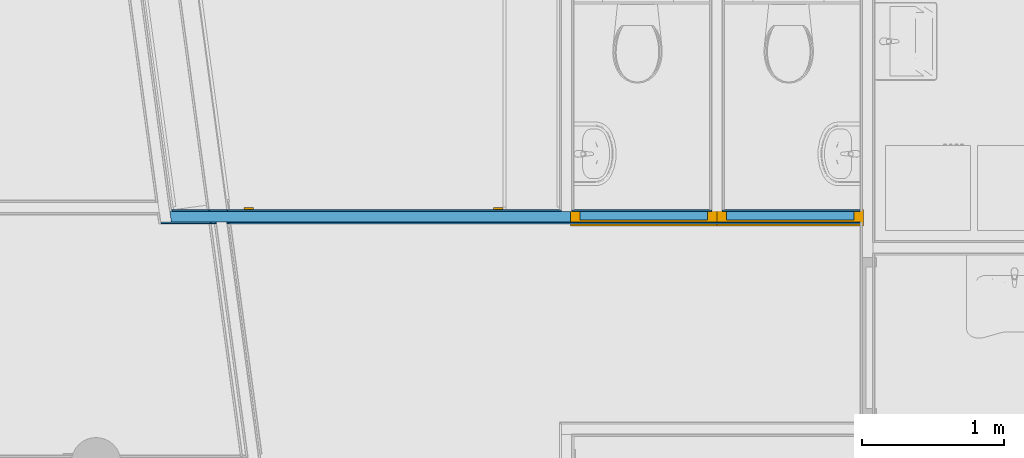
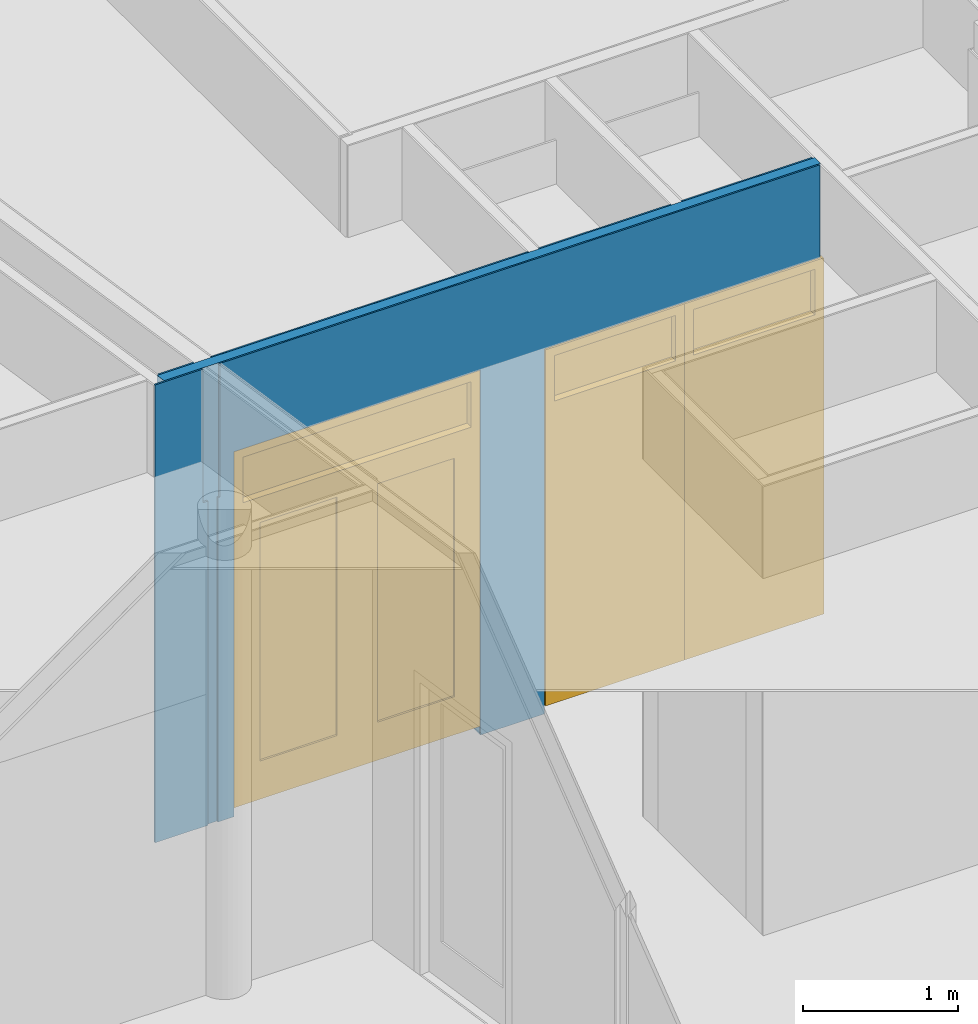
# One storey, part 34 of 167: 3 building element parts, 3 doors, 3 openings, 1 element without a shape of its own.
"""IFC2X3 building model written with IfcOpenShell, lengths in millimetres."""

from ifc_helpers import new_model, entity, si_unit, converted_unit, derived_unit, money_unit, direction, frame, origin_with_axes, place, context, subcontext, project, spatial, open_shell, faceted_brep, surface_model, source, transform, mapped, material, type_object, type_shapes, element, fill, aggregate, save


model = new_model("IFC2X3")

# Units and contexts
model_context = context("Model", 3, precision=0.01, world=origin_with_axes(), true_north=direction((0.0, 1.0)))
plan_context = context("Plan", 3, precision=0.01, world=origin_with_axes(), true_north=direction((0.0, 1.0)))
body_context = subcontext(model_context, "Body", "Model", "MODEL_VIEW")
ifc_project = project(units=[si_unit("LENGTHUNIT", "METRE", prefix="MILLI"), si_unit("AREAUNIT", "SQUARE_METRE"), si_unit("VOLUMEUNIT", "CUBIC_METRE"), converted_unit("PLANEANGLEUNIT", "DEGREE", entity("IfcPlaneAngleMeasure", 0.0174532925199), si_unit("PLANEANGLEUNIT", "RADIAN"), dimensions=[0, 0, 0, 0, 0, 0, 0]), si_unit("SOLIDANGLEUNIT", "STERADIAN"), money_unit("EUR"), converted_unit("TIMEUNIT", "Year", entity("IfcTimeMeasure", 31556926.0), si_unit("TIMEUNIT", "SECOND"), dimensions=[0, 0, 1, 0, 0, 0, 0]), si_unit("MASSUNIT", "GRAM", prefix="KILO"), si_unit("THERMODYNAMICTEMPERATUREUNIT", "DEGREE_CELSIUS"), si_unit("LUMINOUSINTENSITYUNIT", "LUMEN"), si_unit("ENERGYUNIT", "JOULE", prefix="MEGA"), derived_unit("THERMALCONDUCTANCEUNIT", [(si_unit("POWERUNIT", "WATT"), 1), (si_unit("LENGTHUNIT", "METRE"), -1), (si_unit("THERMODYNAMICTEMPERATUREUNIT", "KELVIN"), -1)]), derived_unit("SPECIFICHEATCAPACITYUNIT", [(si_unit("ENERGYUNIT", "JOULE"), 1), (si_unit("MASSUNIT", "GRAM", prefix="KILO"), -1), (si_unit("THERMODYNAMICTEMPERATUREUNIT", "KELVIN"), -1)]), derived_unit("MASSDENSITYUNIT", [(si_unit("MASSUNIT", "GRAM", prefix="KILO"), 1), (si_unit("VOLUMEUNIT", "CUBIC_METRE"), -1)])], contexts=[model_context, plan_context])

# Site, building, storey
site_placement = place(None, origin_with_axes())
site = spatial("IfcSite", under=ifc_project, at=site_placement, Name="Site", CompositionType="ELEMENT")
building_placement = place(site_placement, origin_with_axes())
building = spatial("IfcBuilding", under=site, at=building_placement, Name="Naam gebouw", CompositionType="ELEMENT")
storey_placement = place(building_placement, origin_with_axes())
storey = spatial("IfcBuildingStorey", under=building, at=storey_placement, Name="Begane grond", CompositionType="ELEMENT", Elevation=0.0)

# Door
door_style_1 = type_object("IfcDoorStyle", Name="D1 bl 24", ConstructionType="NOTDEFINED", OperationType="SINGLE_SWING_LEFT", ParameterTakesPrecedence=False, Sizeable=False)
shared_shape = source(origin_with_axes(), body_context, "Body", "SurfaceModel", [
    faceted_brep([(450.0, -40.0, 2325.0), (450.0, -40.0, 0.0), (450.0, -114.0, 0.0), (450.0, -114.0, 2300.0), (450.0, -114.0, 2375.0), (450.0, 0.0, 2375.0), (450.0, 0.0, 2325.0), (475.0, -40.0, 2325.0), (475.0, -40.0, 0.0), (475.0, 0.0, 0.0), (517.0, 0.0, 0.0), (517.0, -114.0, 0.0), (517.0, -114.0, 2733.0), (450.0, -114.0, 2733.0), (450.0, 0.0, 2733.0), (475.0, 0.0, 2325.0), (517.0, 0.0, 2733.0)], [[[0, 1, 2, 3, 4, 5, 6]], [[0, 7, 8, 1]], [[8, 9, 10, 11, 2, 1]], [[4, 3, 2, 11, 12, 13]], [[14, 5, 4, 13]], [[15, 6, 5, 14, 16, 10, 9]], [[6, 15, 7, 0]], [[9, 8, 7, 15]], [[10, 16, 12, 11]], [[16, 14, 13, 12]]]),
    faceted_brep([(-475.0, 0.0, 2325.0), (-475.0, 0.0, 0.0), (-517.0, 0.0, 0.0), (-517.0, 0.0, 2733.0), (-450.0, 0.0, 2733.0), (-450.0, 0.0, 2375.0), (-450.0, 0.0, 2325.0), (-475.0, -40.0, 2325.0), (-475.0, -40.0, 0.0), (-450.0, -40.0, 0.0), (-450.0, -114.0, 0.0), (-517.0, -114.0, 0.0), (-517.0, -114.0, 2733.0), (-450.0, -114.0, 2733.0), (-450.0, -114.0, 2375.0), (-450.0, -40.0, 2325.0), (-450.0, -114.0, 2300.0)], [[[0, 1, 2, 3, 4, 5, 6]], [[0, 7, 8, 1]], [[8, 9, 10, 11, 2, 1]], [[3, 2, 11, 12]], [[4, 3, 12, 13]], [[5, 4, 13, 14]], [[15, 6, 5, 14, 16, 10, 9]], [[6, 15, 7, 0]], [[8, 7, 15, 9]], [[14, 13, 12, 11, 10, 16]]]),
    faceted_brep([(517.0, 0.0, 2800.0), (517.0, -114.0, 2800.0), (517.0, -114.0, 2733.0), (517.0, 0.0, 2733.0), (-517.0, 0.0, 2800.0), (-517.0, -114.0, 2800.0), (-517.0, -114.0, 2733.0), (-450.0, -114.0, 2733.0), (450.0, -114.0, 2733.0), (450.0, 0.0, 2733.0), (-450.0, 0.0, 2733.0), (-517.0, 0.0, 2733.0)], [[[0, 1, 2, 3]], [[4, 5, 1, 0]], [[1, 5, 6, 7, 8, 2]], [[3, 2, 8, 9]], [[0, 3, 9, 10, 11, 4]], [[11, 6, 5, 4]], [[10, 7, 6, 11]], [[9, 8, 7, 10]]]),
    faceted_brep([(-450.0, -40.0, 2325.0), (-450.0, -40.0, 2300.0), (-450.0, -114.0, 2300.0), (-450.0, -114.0, 2375.0), (-450.0, 0.0, 2375.0), (-450.0, 0.0, 2325.0), (450.0, -40.0, 2325.0), (450.0, -40.0, 2300.0), (450.0, -114.0, 2300.0), (450.0, -114.0, 2375.0), (450.0, 0.0, 2375.0), (450.0, 0.0, 2325.0)], [[[0, 1, 2, 3, 4, 5]], [[0, 6, 7, 1]], [[7, 8, 2, 1]], [[8, 9, 3, 2]], [[10, 4, 3, 9]], [[5, 4, 10, 11]], [[5, 11, 6, 0]], [[6, 11, 10, 9, 8, 7]]]),
    faceted_brep([(-475.0, 0.0, 0.0), (475.0, 0.0, 0.0), (475.0, -40.0, 0.0), (-475.0, -40.0, 0.0), (-475.0, 0.0, 2325.0), (475.0, 0.0, 2325.0), (475.0, -40.0, 2325.0), (-475.0, -40.0, 2325.0)], [[[0, 1, 2, 3]], [[0, 4, 5, 1]], [[1, 5, 6, 2]], [[3, 2, 6, 7]], [[4, 0, 3, 7]], [[5, 4, 7, 6]]]),
    surface_model("IfcShellBasedSurfaceModel", [(450.0, -54.0, 2375.0), (-450.0, -54.0, 2375.0), (-450.0, -54.0, 2733.0), (450.0, -54.0, 2733.0)], [open_shell([[[0, 1, 2, 3]]])]),
    surface_model("IfcShellBasedSurfaceModel", [(450.0, -66.0, 2375.0), (450.0, -66.0, 2733.0), (-450.0, -66.0, 2733.0), (-450.0, -66.0, 2375.0)], [open_shell([[[0, 1, 2, 3]]])]),
])
type_shapes(door_style_1, [shared_shape])
wall_placement = place(storey_placement, frame((27050.0000132, 35586.3531845, -100.0), z_axis=(0.0, 0.0, 1.0), x_axis=(-1.0, -2.02650888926e-08, 0.0)))
opening_1_placement = place(wall_placement, frame((545.499998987, 0.0, 100.0), z_axis=(0.0, 0.0, 1.0), x_axis=(1.0, 0.0, 0.0)))
door_1_placement = place(opening_1_placement, frame((-517.0, 0.0, 0.0), z_axis=(0.0, 0.0, 1.0), x_axis=(1.0, 0.0, 0.0)))
door_1 = element("IfcDoor", 1, at=door_1_placement, inside=storey, type_object=door_style_1, Name="32_Deur_Hi-07", ObjectType="DOOR", OverallHeight=2800.0, OverallWidth=1034.0, context=body_context, shape_type="MappedRepresentation", body=[
    mapped(shared_shape, transform((517.00000231, 63.9999889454, 0.0))),
])

opening_2_placement = place(wall_placement, frame((1579.49999899, 0.0, 100.0), z_axis=(0.0, 0.0, 1.0), x_axis=(1.0, 0.0, 0.0)))
door_2_placement = place(opening_2_placement, frame((-517.0, 0.0, 0.0), z_axis=(0.0, 0.0, 1.0), x_axis=(1.0, 0.0, 0.0)))
door_2 = element("IfcDoor", 2, at=door_2_placement, inside=storey, type_object=door_style_1, Name="32_Deur_Hi-07", ObjectType="DOOR", OverallHeight=2800.0, OverallWidth=1034.0, context=body_context, shape_type="MappedRepresentation", body=[
    mapped(shared_shape, transform((517.00000231, 63.9999679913, 0.0))),
])

door_style_2 = type_object("IfcDoorStyle", Name="D2 bl 24", ConstructionType="NOTDEFINED", OperationType="DOUBLE_DOOR_SINGLE_SWING", ParameterTakesPrecedence=False, Sizeable=False)
opening_3_placement = place(wall_placement, frame((3490.49995973, 0.0, 100.0), z_axis=(0.0, 0.0, 1.0), x_axis=(1.0, 0.0, 0.0)))
door_3_placement = place(opening_3_placement, frame((-915.5, 0.0, 0.0), z_axis=(0.0, 0.0, 1.0), x_axis=(1.0, 0.0, 0.0)))
door_3 = element("IfcDoor", 3, at=door_3_placement, inside=storey, type_object=door_style_2, Name="32_Deur_Hi-17", ObjectType="DOOR", OverallHeight=2800.0, OverallWidth=1831.0, context=body_context, shape_type="SurfaceModel", body=[
    faceted_brep([(1764.00000122, 9.99991206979, 2325.0), (1764.00000122, 9.99991206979, 0.0), (1763.99999972, -64.0000879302, 0.0), (1763.99999972, -64.0000879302, 2300.0), (1763.99999972, -64.0000879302, 2375.0), (1764.00000203, 49.9999120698, 2375.0), (1764.00000203, 49.9999120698, 2325.0), (1789.00000122, 9.99991156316, 2325.0), (1789.00000122, 9.99991156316, 0.0), (1789.00000203, 49.9999115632, 0.0), (1831.00000203, 49.999910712, 0.0), (1830.99999972, -64.000089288, 0.0), (1830.99999972, -64.000089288, 2733.0), (1763.99999972, -64.0000879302, 2733.0), (1764.00000203, 49.9999120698, 2733.0), (1789.00000203, 49.9999115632, 2325.0), (1831.00000203, 49.999910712, 2733.0)], [[[0, 1, 2, 3, 4, 5, 6]], [[0, 7, 8, 1]], [[8, 9, 10, 11, 2, 1]], [[4, 3, 2, 11, 12, 13]], [[14, 5, 4, 13]], [[15, 6, 5, 14, 16, 10, 9]], [[6, 15, 7, 0]], [[9, 8, 7, 15]], [[10, 16, 12, 11]], [[16, 14, 13, 12]]]),
    faceted_brep([(42.0000020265, 49.9999469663, 2325.0), (42.0000020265, 49.9999469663, 0.0), (2.02651406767e-06, 49.9999478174, 0.0), (2.02651406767e-06, 49.9999478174, 2733.0), (67.0000020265, 49.9999464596, 2733.0), (67.0000020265, 49.9999464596, 2375.0), (67.0000020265, 49.9999464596, 2325.0), (42.0000012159, 9.99994696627, 2325.0), (42.0000012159, 9.99994696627, 0.0), (67.0000012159, 9.99994645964, 0.0), (66.9999997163, -64.0000535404, 0.0), (-2.83705503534e-07, -64.0000521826, 0.0), (-2.83705503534e-07, -64.0000521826, 2733.0), (66.9999997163, -64.0000535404, 2733.0), (66.9999997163, -64.0000535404, 2375.0), (67.0000012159, 9.99994645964, 2325.0), (66.9999997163, -64.0000535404, 2300.0)], [[[0, 1, 2, 3, 4, 5, 6]], [[0, 7, 8, 1]], [[8, 9, 10, 11, 2, 1]], [[3, 2, 11, 12]], [[4, 3, 12, 13]], [[5, 4, 13, 14]], [[15, 6, 5, 14, 16, 10, 9]], [[6, 15, 7, 0]], [[8, 7, 15, 9]], [[14, 13, 12, 11, 10, 16]]]),
    faceted_brep([(1831.00000203, 49.999910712, 2800.0), (1830.99999972, -64.000089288, 2800.0), (1830.99999972, -64.000089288, 2733.0), (1831.00000203, 49.999910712, 2733.0), (2.02651406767e-06, 49.9999478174, 2800.0), (-2.83705503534e-07, -64.0000521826, 2800.0), (-2.83705503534e-07, -64.0000521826, 2733.0), (66.9999997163, -64.0000535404, 2733.0), (1763.99999972, -64.0000879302, 2733.0), (1764.00000203, 49.9999120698, 2733.0), (67.0000020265, 49.9999464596, 2733.0), (2.02651406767e-06, 49.9999478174, 2733.0)], [[[0, 1, 2, 3]], [[4, 5, 1, 0]], [[1, 5, 6, 7, 8, 2]], [[3, 2, 8, 9]], [[0, 3, 9, 10, 11, 4]], [[11, 6, 5, 4]], [[10, 7, 6, 11]], [[9, 8, 7, 10]]]),
    faceted_brep([(67.0000012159, 9.99994645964, 2325.0), (67.0000012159, 9.99994645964, 2300.0), (66.9999997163, -64.0000535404, 2300.0), (66.9999997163, -64.0000535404, 2375.0), (67.0000020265, 49.9999464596, 2375.0), (67.0000020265, 49.9999464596, 2325.0), (1764.00000122, 9.99991206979, 2325.0), (1764.00000122, 9.99991206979, 2300.0), (1763.99999972, -64.0000879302, 2300.0), (1763.99999972, -64.0000879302, 2375.0), (1764.00000203, 49.9999120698, 2375.0), (1764.00000203, 49.9999120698, 2325.0)], [[[0, 1, 2, 3, 4, 5]], [[0, 6, 7, 1]], [[7, 8, 2, 1]], [[8, 9, 3, 2]], [[10, 4, 3, 9]], [[5, 4, 10, 11]], [[5, 11, 6, 0]], [[6, 11, 10, 9, 8, 7]]]),
    faceted_brep([(42.0000020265, 49.9999469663, 300.0), (192.000002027, 49.9999439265, 300.0), (192.000001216, 9.99994392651, 300.0), (42.0000012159, 9.99994696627, 300.0), (42.0000020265, 49.9999469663, 2175.0), (192.000002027, 49.9999439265, 2175.0), (192.000001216, 9.99994392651, 2175.0), (42.0000012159, 9.99994696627, 2175.0)], [[[0, 1, 2, 3]], [[0, 4, 5, 1]], [[1, 5, 6, 2]], [[3, 2, 6, 7]], [[4, 0, 3, 7]], [[5, 4, 7, 6]]]),
    faceted_brep([(915.500002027, 49.9999292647, 300.0), (915.500002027, 49.9999292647, 2175.0), (915.500001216, 9.99992926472, 2175.0), (915.500001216, 9.99992926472, 300.0), (765.500002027, 49.9999323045, 300.0), (765.500002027, 49.9999323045, 2175.0), (765.500001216, 9.99993230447, 2175.0), (765.500001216, 9.99993230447, 300.0)], [[[0, 1, 2, 3]], [[0, 4, 5, 1]], [[1, 5, 6, 2]], [[3, 2, 6, 7]], [[4, 0, 3, 7]], [[5, 4, 7, 6]]]),
    faceted_brep([(42.0000020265, 49.9999469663, 0.0), (915.500002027, 49.9999292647, 0.0), (915.500001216, 9.99992926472, 0.0), (42.0000012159, 9.99994696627, 0.0), (42.0000020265, 49.9999469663, 300.0), (192.000002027, 49.9999439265, 300.0), (765.500002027, 49.9999323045, 300.0), (915.500002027, 49.9999292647, 300.0), (915.500001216, 9.99992926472, 300.0), (765.500001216, 9.99993230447, 300.0), (192.000001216, 9.99994392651, 300.0), (42.0000012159, 9.99994696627, 300.0)], [[[0, 1, 2, 3]], [[0, 4, 5, 6, 7, 1]], [[1, 7, 8, 2]], [[3, 2, 8, 9, 10, 11]], [[4, 0, 3, 11]], [[5, 4, 11, 10]], [[6, 5, 10, 9]], [[7, 6, 9, 8]]]),
    faceted_brep([(42.0000020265, 49.9999469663, 2325.0), (42.0000020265, 49.9999469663, 2175.0), (42.0000012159, 9.99994696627, 2175.0), (42.0000012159, 9.99994696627, 2325.0), (915.500002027, 49.9999292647, 2325.0), (915.500002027, 49.9999292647, 2175.0), (765.500002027, 49.9999323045, 2175.0), (192.000002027, 49.9999439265, 2175.0), (192.000001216, 9.99994392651, 2175.0), (765.500001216, 9.99993230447, 2175.0), (915.500001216, 9.99992926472, 2175.0), (915.500001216, 9.99992926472, 2325.0)], [[[0, 1, 2, 3]], [[0, 4, 5, 6, 7, 1]], [[1, 7, 8, 2]], [[3, 2, 8, 9, 10, 11]], [[4, 0, 3, 11]], [[5, 4, 11, 10]], [[6, 5, 10, 9]], [[7, 6, 9, 8]]]),
    surface_model("IfcShellBasedSurfaceModel", [(192.000001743, 35.9999439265, 300.0), (192.000001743, 35.9999439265, 2175.0), (765.500001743, 35.9999323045, 2175.0), (765.500001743, 35.9999323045, 300.0)], [open_shell([[[0, 1, 2, 3]]])]),
    surface_model("IfcShellBasedSurfaceModel", [(192.0000015, 23.9999439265, 300.0), (765.5000015, 23.9999323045, 300.0), (765.5000015, 23.9999323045, 2175.0), (192.0000015, 23.9999439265, 2175.0)], [open_shell([[[0, 1, 2, 3]]])]),
    faceted_brep([(1789.00000203, 49.9999115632, 300.0), (1789.00000122, 9.99991156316, 300.0), (1639.00000122, 9.99991460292, 300.0), (1639.00000203, 49.9999146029, 300.0), (1789.00000203, 49.9999115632, 2175.0), (1789.00000122, 9.99991156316, 2175.0), (1639.00000122, 9.99991460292, 2175.0), (1639.00000203, 49.9999146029, 2175.0)], [[[0, 1, 2, 3]], [[4, 5, 1, 0]], [[1, 5, 6, 2]], [[3, 2, 6, 7]], [[0, 3, 7, 4]], [[7, 6, 5, 4]]]),
    faceted_brep([(915.500002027, 49.9999292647, 300.0), (915.500001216, 9.99992926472, 300.0), (915.500001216, 9.99992926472, 2175.0), (915.500002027, 49.9999292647, 2175.0), (1065.50000203, 49.9999262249, 300.0), (1065.50000122, 9.99992622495, 300.0), (1065.50000122, 9.99992622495, 2175.0), (1065.50000203, 49.9999262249, 2175.0)], [[[0, 1, 2, 3]], [[4, 5, 1, 0]], [[1, 5, 6, 2]], [[3, 2, 6, 7]], [[0, 3, 7, 4]], [[7, 6, 5, 4]]]),
    faceted_brep([(1789.00000203, 49.9999115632, 0.0), (1789.00000122, 9.99991156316, 0.0), (915.500001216, 9.99992926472, 0.0), (915.500002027, 49.9999292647, 0.0), (1789.00000203, 49.9999115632, 300.0), (1789.00000122, 9.99991156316, 300.0), (1639.00000122, 9.99991460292, 300.0), (1065.50000122, 9.99992622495, 300.0), (915.500001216, 9.99992926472, 300.0), (915.500002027, 49.9999292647, 300.0), (1065.50000203, 49.9999262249, 300.0), (1639.00000203, 49.9999146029, 300.0)], [[[0, 1, 2, 3]], [[4, 5, 1, 0]], [[1, 5, 6, 7, 8, 2]], [[3, 2, 8, 9]], [[0, 3, 9, 10, 11, 4]], [[11, 6, 5, 4]], [[10, 7, 6, 11]], [[9, 8, 7, 10]]]),
    faceted_brep([(1789.00000203, 49.9999115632, 2325.0), (1789.00000122, 9.99991156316, 2325.0), (1789.00000122, 9.99991156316, 2175.0), (1789.00000203, 49.9999115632, 2175.0), (915.500002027, 49.9999292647, 2325.0), (915.500001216, 9.99992926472, 2325.0), (915.500001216, 9.99992926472, 2175.0), (1065.50000122, 9.99992622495, 2175.0), (1639.00000122, 9.99991460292, 2175.0), (1639.00000203, 49.9999146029, 2175.0), (1065.50000203, 49.9999262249, 2175.0), (915.500002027, 49.9999292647, 2175.0)], [[[0, 1, 2, 3]], [[4, 5, 1, 0]], [[1, 5, 6, 7, 8, 2]], [[3, 2, 8, 9]], [[0, 3, 9, 10, 11, 4]], [[11, 6, 5, 4]], [[10, 7, 6, 11]], [[9, 8, 7, 10]]]),
    surface_model("IfcShellBasedSurfaceModel", [(1639.00000174, 35.9999146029, 300.0), (1065.50000174, 35.9999262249, 300.0), (1065.50000174, 35.9999262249, 2175.0), (1639.00000174, 35.9999146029, 2175.0)], [open_shell([[[0, 1, 2, 3]]])]),
    surface_model("IfcShellBasedSurfaceModel", [(1639.0000015, 23.9999146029, 300.0), (1639.0000015, 23.9999146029, 2175.0), (1065.5000015, 23.9999262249, 2175.0), (1065.5000015, 23.9999262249, 300.0)], [open_shell([[[0, 1, 2, 3]]])]),
    surface_model("IfcShellBasedSurfaceModel", [(1764.00000093, -4.00008793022, 2375.0), (67.0000009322, -4.00005354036, 2375.0), (67.0000009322, -4.00005354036, 2733.0), (1764.00000093, -4.00008793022, 2733.0)], [open_shell([[[0, 1, 2, 3]]])]),
    surface_model("IfcShellBasedSurfaceModel", [(1764.00000069, -16.0000879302, 2375.0), (1764.00000069, -16.0000879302, 2733.0), (67.000000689, -16.0000535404, 2733.0), (67.000000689, -16.0000535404, 2375.0)], [open_shell([[[0, 1, 2, 3]]])]),
])

# Wall, opening
wall_type = type_object("IfcWallType", Name="_TenW_22_Metalstud 100 enkel gipsvezelplaat 100", PredefinedType="NOTDEFINED")
wall = element("IfcWall", 4, at=wall_placement, inside=storey, type_object=wall_type, Name="22_Wand_Wand-x")
opening_1 = element("IfcOpeningElement", 5, at=opening_1_placement, cuts=wall, Name="32_Deur_Hi-07", context=body_context, shape_type="Brep", body=[
    faceted_brep([(-517.00000304, -199.999989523, 0.0), (-517.00000304, -199.999989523, 2800.0), (-516.99999696, 100.000010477, 2800.0), (-516.99999696, 100.000010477, 0.0), (516.99999696, -200.000010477, 0.0), (516.99999696, -200.000010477, 2800.0), (517.00000304, 99.999989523, 2800.0), (517.00000304, 99.999989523, 0.0)], [[[0, 1, 2, 3]], [[0, 4, 5, 1]], [[1, 5, 6, 2]], [[3, 2, 6, 7]], [[4, 0, 3, 7]], [[5, 4, 7, 6]]]),
])

fill(opening_1, door_1)

# Opening
opening_2 = element("IfcOpeningElement", 6, at=opening_2_placement, cuts=wall, Name="32_Deur_Hi-07", context=body_context, shape_type="Brep", body=[
    faceted_brep([(-517.00000304, -199.999989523, 0.0), (-517.00000304, -199.999989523, 2800.0), (-516.99999696, 100.000010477, 2800.0), (-516.99999696, 100.000010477, 0.0), (516.99999696, -200.000010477, 0.0), (516.99999696, -200.000010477, 2800.0), (517.00000304, 99.999989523, 2800.0), (517.00000304, 99.999989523, 0.0)], [[[0, 1, 2, 3]], [[0, 4, 5, 1]], [[1, 5, 6, 2]], [[3, 2, 6, 7]], [[4, 0, 3, 7]], [[5, 4, 7, 6]]]),
])

fill(opening_2, door_2)

opening_3 = element("IfcOpeningElement", 7, at=opening_3_placement, cuts=wall, Name="32_Deur_Hi-17", context=body_context, shape_type="Brep", body=[
    faceted_brep([(-915.499994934, 200.000018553, 2800.0), (-915.499994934, 200.000018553, 0.0), (-915.500001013, -99.9999814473, 0.0), (-915.500001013, -99.9999814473, 2800.0), (915.500005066, 199.999981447, 2800.0), (915.500005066, 199.999981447, 0.0), (915.499998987, -100.000018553, 0.0), (915.499998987, -100.000018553, 2800.0)], [[[0, 1, 2, 3]], [[0, 4, 5, 1]], [[1, 5, 6, 2]], [[3, 2, 6, 7]], [[4, 0, 3, 7]], [[5, 4, 7, 6]]]),
])

fill(opening_3, door_3)

# Building element part
ifc_material_1 = material(Name="Gipsplaat watervast")
building_element_part_1_placement = place(wall_placement, origin_with_axes())
building_element_part_1 = element("IfcBuildingElementPart", 8, at=building_element_part_1_placement, material=ifc_material_1, Name="Gipsplaat watervast", context=body_context, shape_type="Brep", body=[
    faceted_brep([(4405.9999615, 37.499910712, 2900.0), (4405.9999615, 37.499910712, 100.0), (4405.99995973, 37.499910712, 30.0), (4526.21244935, 37.4999082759, 30.0), (4526.21244935, 37.4999082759, 2580.0), (4513.59832285, 37.4999085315, 2580.0), (4513.59832285, 37.4999085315, 3630.0), (50.0000007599, 37.4999989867, 3630.0), (50.0000007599, 37.4999989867, 2900.0), (2096.50000076, 37.4999575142, 2900.0), (2096.50000076, 37.4999575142, 100.0), (2096.49999899, 37.4999575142, 30.0), (2574.99995973, 37.4999478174, 30.0), (2574.9999615, 37.4999478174, 100.0), (2574.9999615, 37.4999478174, 2900.0), (4405.99996175, 49.999910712, 2900.0), (4405.99996175, 49.999910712, 100.0), (4405.99995973, 49.999910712, 30.0), (4524.51946786, 49.9999083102, 30.0), (4524.51946786, 49.9999083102, 2580.0), (4511.90534137, 49.9999085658, 2580.0), (4511.90534137, 49.9999085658, 3630.0), (50.0000010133, 49.9999989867, 3630.0), (50.0000010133, 49.9999989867, 2900.0), (2096.50000101, 49.9999575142, 2900.0), (2096.50000101, 49.9999575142, 100.0), (2096.49999899, 49.9999575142, 30.0), (2574.99995973, 49.9999478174, 30.0), (2574.99996175, 49.9999478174, 100.0), (2574.99996175, 49.9999478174, 2900.0)], [[[0, 1, 2, 3, 4, 5, 6, 7, 8, 9, 10, 11, 12, 13, 14]], [[1, 0, 15, 16]], [[1, 16, 17, 2]], [[3, 2, 17, 18]], [[4, 3, 18, 19]], [[5, 4, 19, 20]], [[6, 5, 20, 21]], [[22, 7, 6, 21]], [[7, 22, 23, 8]], [[9, 8, 23, 24]], [[9, 24, 25, 10]], [[25, 26, 11, 10]], [[26, 27, 12, 11]], [[28, 13, 12, 27]], [[14, 13, 28, 29]], [[0, 14, 29, 15]], [[29, 28, 27, 26, 25, 24, 23, 22, 21, 20, 19, 18, 17, 16, 15]]]),
    faceted_brep([(4992.56193356, 49.9998988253, 30.0), (4600.20422682, 49.9999067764, 30.0), (4600.20422682, 49.9999067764, 2580.0), (4638.04660629, 49.9999060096, 2580.0), (4638.04660629, 49.9999060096, 3630.0), (4992.56193356, 49.9998988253, 3630.0), (4601.8972083, 37.4999067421, 30.0), (4994.25491505, 37.499898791, 30.0), (4601.8972083, 37.4999067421, 2580.0), (4639.73958778, 37.4999059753, 2580.0), (4639.73958778, 37.4999059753, 3630.0), (4994.25491505, 37.499898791, 3630.0)], [[[0, 1, 2, 3, 4, 5]], [[6, 1, 0, 7]], [[1, 6, 8, 2]], [[9, 3, 2, 8]], [[9, 10, 4, 3]], [[5, 4, 10, 11]], [[7, 0, 5, 11]], [[6, 7, 11, 10, 9, 8]]]),
])

ifc_material_2 = material(Name="Isolatie - Steenwol zacht")
building_element_part_2_placement = place(wall_placement, origin_with_axes())
building_element_part_2 = element("IfcBuildingElementPart", 9, at=building_element_part_2_placement, material=ifc_material_2, Name="Isolatie - Steenwol zacht", context=body_context, shape_type="Brep", body=[
    faceted_brep([(4405.99995998, -37.500089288, 2900.0), (4405.99995998, -37.500089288, 100.0), (4405.99995973, -37.500089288, 30.0), (4928.72804499, -37.5000998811, 30.0), (4928.72804499, -37.5000998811, 3630.0), (37.4999992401, -37.5000007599, 3630.0), (37.4999992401, -37.5000007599, 2900.0), (2096.49999924, -37.5000424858, 2900.0), (2096.49999924, -37.5000424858, 100.0), (2096.49999899, -37.5000424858, 30.0), (2574.99995973, -37.5000521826, 30.0), (2574.99995998, -37.5000521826, 100.0), (2574.99995998, -37.5000521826, 2900.0), (4405.9999615, 37.499910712, 2900.0), (4405.9999615, 37.499910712, 100.0), (4405.99995973, 37.499910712, 30.0), (4918.57015609, 37.4999003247, 30.0), (4918.57015609, 37.4999003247, 3630.0), (37.5000007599, 37.4999992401, 3630.0), (37.5000007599, 37.4999992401, 2900.0), (2096.50000076, 37.4999575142, 2900.0), (2096.50000076, 37.4999575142, 100.0), (2096.49999899, 37.4999575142, 30.0), (2574.99995973, 37.4999478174, 30.0), (2574.9999615, 37.4999478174, 100.0), (2574.9999615, 37.4999478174, 2900.0)], [[[0, 1, 2, 3, 4, 5, 6, 7, 8, 9, 10, 11, 12]], [[1, 0, 13, 14]], [[1, 14, 15, 2]], [[3, 2, 15, 16]], [[4, 3, 16, 17]], [[5, 4, 17, 18]], [[5, 18, 19, 6]], [[7, 6, 19, 20]], [[7, 20, 21, 8]], [[21, 22, 9, 8]], [[22, 23, 10, 9]], [[24, 11, 10, 23]], [[12, 11, 24, 25]], [[0, 12, 25, 13]], [[25, 24, 23, 22, 21, 20, 19, 18, 17, 16, 15, 14, 13]]]),
])

building_element_part_3_placement = place(wall_placement, origin_with_axes())
building_element_part_3 = element("IfcBuildingElementPart", 10, at=building_element_part_3_placement, material=ifc_material_1, Name="Gipsplaat watervast", context=body_context, shape_type="Brep", body=[
    faceted_brep([(4405.99995973, -50.000089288, 2900.0), (4405.99995973, -50.000089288, 100.0), (4405.99995973, -50.000089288, 30.0), (4917.80689999, -50.0000996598, 30.0), (4917.80689999, -50.0000996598, 3630.0), (4651.59045816, -50.0000942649, 3630.0), (4651.59045816, -50.0000942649, 2580.0), (4525.44919324, -50.0000917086, 2580.0), (4525.44919324, -50.0000917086, 3630.0), (2162.49999547, -50.0000438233, 3630.0), (2162.49999547, -50.0000438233, 30.0), (2574.99995973, -50.0000521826, 30.0), (2574.99995973, -50.0000521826, 100.0), (2574.99995973, -50.0000521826, 2900.0), (4405.99995998, -37.500089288, 2900.0), (4405.99995998, -37.500089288, 100.0), (4405.99995973, -37.500089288, 30.0), (4916.1139185, -37.5000996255, 30.0), (4916.1139185, -37.5000996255, 3630.0), (4649.89747668, -37.5000942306, 3630.0), (4649.89747668, -37.5000942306, 2580.0), (4523.75621175, -37.5000916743, 2580.0), (4523.75621175, -37.5000916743, 3630.0), (2162.49999572, -37.5000438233, 3630.0), (2162.49999572, -37.5000438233, 30.0), (2574.99995973, -37.5000521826, 30.0), (2574.99995998, -37.5000521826, 100.0), (2574.99995998, -37.5000521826, 2900.0)], [[[0, 1, 2, 3, 4, 5, 6, 7, 8, 9, 10, 11, 12, 13]], [[1, 0, 14, 15]], [[1, 15, 16, 2]], [[16, 17, 3, 2]], [[17, 18, 4, 3]], [[19, 5, 4, 18]], [[5, 19, 20, 6]], [[20, 21, 7, 6]], [[21, 22, 8, 7]], [[8, 22, 23, 9]], [[10, 9, 23, 24]], [[11, 10, 24, 25]], [[26, 12, 11, 25]], [[13, 12, 26, 27]], [[0, 13, 27, 14]], [[27, 26, 25, 24, 23, 22, 21, 20, 19, 18, 17, 16, 15, 14]]]),
    faceted_brep([(49.9999992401, -37.5000010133, 2900.0), (49.9999989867, -50.0000010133, 2900.0), (49.9999989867, -50.0000010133, 3630.0), (49.9999992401, -37.5000010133, 3630.0), (1024.99999899, -50.0000207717, 2900.0), (1024.99999924, -37.5000207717, 2900.0), (1024.99999899, -50.0000207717, 3630.0), (1024.99999924, -37.5000207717, 3630.0)], [[[0, 1, 2, 3]], [[4, 1, 0, 5]], [[1, 4, 6, 2]], [[7, 3, 2, 6]], [[5, 0, 3, 7]], [[4, 5, 7, 6]]]),
    faceted_brep([(1099.99999924, -37.5000222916, 2900.0), (1099.99999899, -50.0000222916, 2900.0), (1099.99999899, -50.0000222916, 3630.0), (1099.99999924, -37.5000222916, 3630.0), (2087.49999547, -50.0000423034, 2900.0), (2087.49999572, -37.5000423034, 2900.0), (2087.49999547, -50.0000423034, 3630.0), (2087.49999572, -37.5000423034, 3630.0)], [[[0, 1, 2, 3]], [[4, 1, 0, 5]], [[1, 4, 6, 2]], [[7, 3, 2, 6]], [[5, 0, 3, 7]], [[4, 5, 7, 6]]]),
])

aggregate(wall, [building_element_part_1, building_element_part_2, building_element_part_3])

save(model, "model.ifc")
